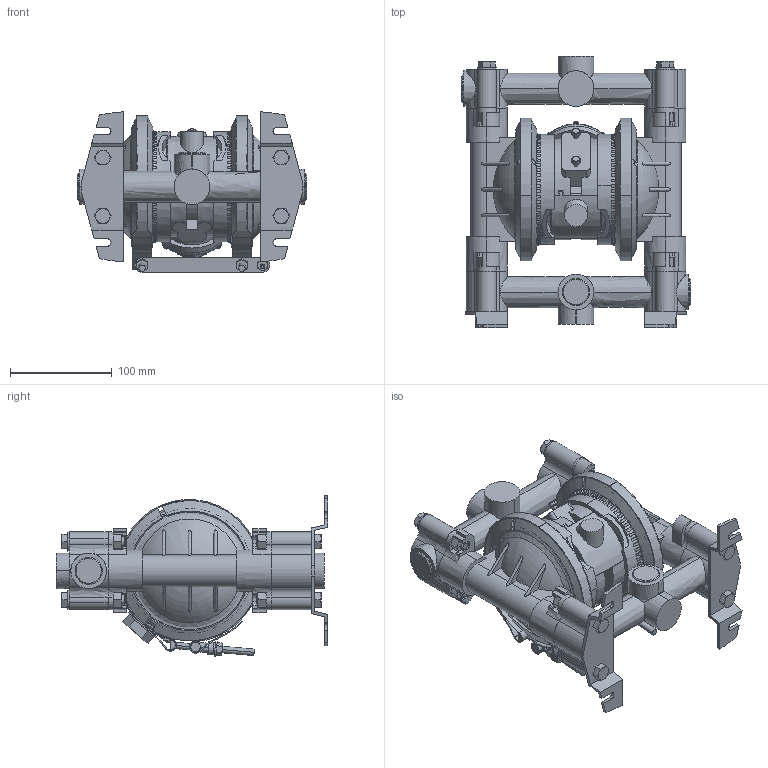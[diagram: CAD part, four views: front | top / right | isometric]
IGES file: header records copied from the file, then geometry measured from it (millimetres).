
Start section:  PTC IGES file: 243305-en-k.igs
Global section: file name: 243305-en-k.igs; native system: Creo Parametric by PTC Inc.; preprocessor: 2019030; author: qusrh3; organization: Unknown; date: 20191231.162016; units: inch
Bounding box: 225.3 x 266.32 x 157.53 mm (x, y, z)
Surface area: 453726.1 mm2 (no closed solid volume)
Topology: 0 solids, 0 shells, 2162 faces, 11673 edges, 11673 vertices
Faces by surface type: revolution 1266, bspline 895, extrusion 1
